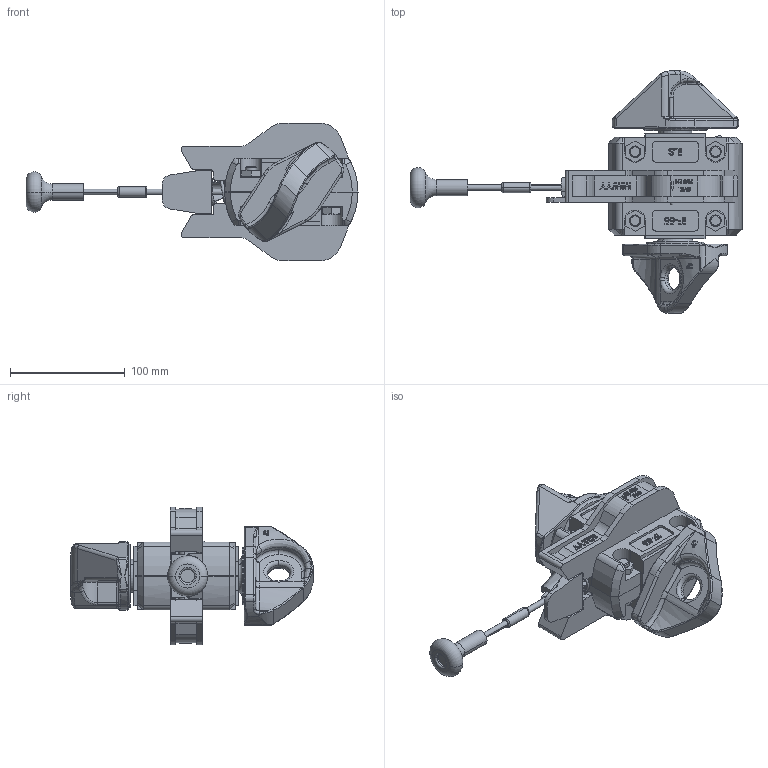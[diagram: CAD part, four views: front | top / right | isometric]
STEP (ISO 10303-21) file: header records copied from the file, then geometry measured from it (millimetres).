
FILE_DESCRIPTION (( 'STEP AP214' ), '1' );
FILE_NAME ('IF-55.STEP', '2026-05-05T09:56:03', ( '' ), ( '' ), 'SwSTEP 2.0', 'SolidWorks 2021', '' );
FILE_SCHEMA (( 'AUTOMOTIVE_DESIGN' ));
Length unit declared in the file: millimetre
Products named in the file (15): Upper cone; Wire top; IF-55 Cone; IF-55-Turning spring; hex thin nut gradeb_din_Hexagon Nut ISO 4036 - M10 - N; Wire; Wire middle; IF-55; IF-55-Mouth piece; Lower cone; IF-55-Body left; hex screw gradec_din_DIN EN 24018 - M10 x 35-WN; Wire end; IF-55-Body right; IF-55-Spring
Assembly tree (20 placements, depth 3):
  IF-55
    IF-55-Body left
    IF-55-Body right
    IF-55 Cone
      Upper cone
      Lower cone
    Wire
      Wire middle
      Wire end
      Wire top
    IF-55-Mouth piece
    IF-55-Spring
    IF-55-Turning spring
    hex screw gradec_din_DIN EN 24018 - M10 x 35-WN  x4
    hex thin nut gradeb_din_Hexagon Nut ISO 4036 - M10 - N  x4
Bounding box: 288.74 x 211 x 120 mm (x, y, z)
Volume: 714875.3 mm3; surface area: 210725.2 mm2
Topology: 21 solids, 21 shells, 1922 faces, 5038 edges, 3205 vertices
Faces by surface type: plane 883, bspline 432, cylinder 414, torus 109, cone 78, sphere 6
Entity records: 88249 total; most frequent: CARTESIAN_POINT 43309, ORIENTED_EDGE 9480, DIRECTION 7519, EDGE_CURVE 4740, VERTEX_POINT 3043, LINE 2655, VECTOR 2655, AXIS2_PLACEMENT_3D 2432
